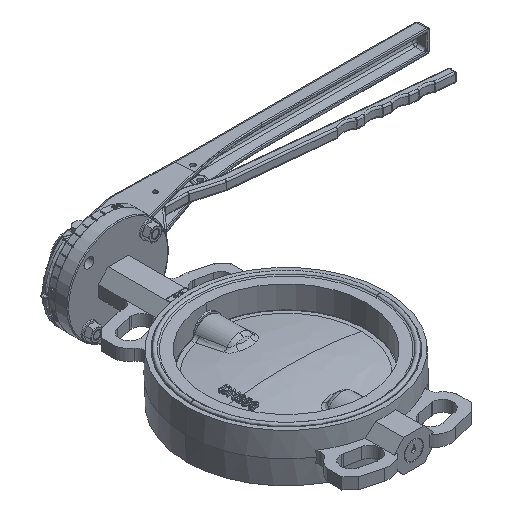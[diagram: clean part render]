
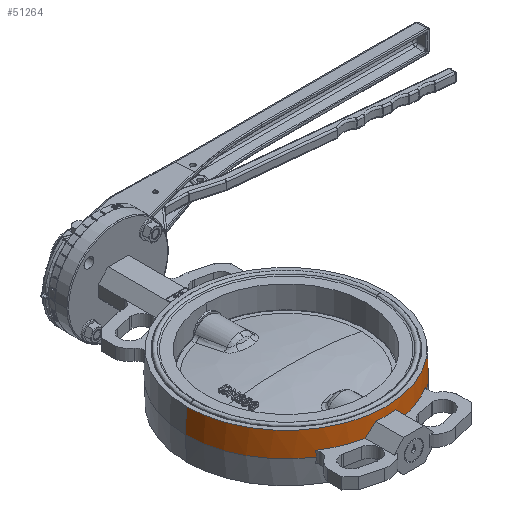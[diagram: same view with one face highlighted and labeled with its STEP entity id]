
A CAD part, isometric view. The second image highlights one B-rep face of the part: STEP entity #51264.
In plain terms, the highlighted conical face has half-angle 2.406 degrees and reference radius 123.5 mm.
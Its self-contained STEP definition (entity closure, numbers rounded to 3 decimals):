
#368 = DIRECTION ( 'NONE',  ( -1., 0., 0. ) ) ;
#465 = EDGE_CURVE ( 'NONE', #21978, #41653, #11090, .T. ) ;
#547 = EDGE_CURVE ( 'NONE', #24864, #21978, #3767, .T. ) ;
#988 = EDGE_CURVE ( 'NONE', #31373, #24864, #52238, .T. ) ;
#2116 = CARTESIAN_POINT ( 'NONE',  ( 0., 0., 0. ) ) ;
#2172 = EDGE_CURVE ( 'NONE', #30839, #22387, #6628, .T. ) ;
#2202 = CARTESIAN_POINT ( 'NONE',  ( 0., 0., 0. ) ) ;
#3767 = B_SPLINE_CURVE_WITH_KNOTS ( 'NONE', 3,
 ( #62873, #30295, #35787, #63357 ),
 .UNSPECIFIED., .F., .F.,
 ( 4, 4 ),
 ( 0., 1. ),
 .UNSPECIFIED. ) ;
#4041 = CARTESIAN_POINT ( 'NONE',  ( -24.5, -122.021, 7. ) ) ;
#4376 = FACE_OUTER_BOUND ( 'NONE', #23511, .T. ) ;
#4558 = CARTESIAN_POINT ( 'NONE',  ( 0., 0., 29.75 ) ) ;
#5665 = DIRECTION ( 'NONE',  ( 0., 0., -1. ) ) ;
#6277 = B_SPLINE_CURVE_WITH_KNOTS ( 'NONE', 3,
 ( #66799, #50691, #12296, #67503 ),
 .UNSPECIFIED., .F., .F.,
 ( 4, 4 ),
 ( 0., 1. ),
 .UNSPECIFIED. ) ;
#6533 = CARTESIAN_POINT ( 'NONE',  ( -12.5, -123.278, 20. ) ) ;
#6610 = CARTESIAN_POINT ( 'NONE',  ( 16.519, -123.054, 15.646 ) ) ;
#6628 = LINE ( 'NONE', #25688, #20423 ) ;
#7028 = CARTESIAN_POINT ( 'NONE',  ( -20.522, -122.635, 11.309 ) ) ;
#7103 = CARTESIAN_POINT ( 'NONE',  ( 20.522, -122.635, 11.309 ) ) ;
#7207 = AXIS2_PLACEMENT_3D ( 'NONE', #4558, #47978, #10287 ) ;
#7955 = CARTESIAN_POINT ( 'NONE',  ( -24.5, -122.021, 7. ) ) ;
#9103 = DIRECTION ( 'NONE',  ( -1., 0., 0. ) ) ;
#9723 = EDGE_CURVE ( 'NONE', #22387, #25065, #67040, .T. ) ;
#10028 = CARTESIAN_POINT ( 'NONE',  ( -124.75, 0., 0. ) ) ;
#10287 = DIRECTION ( 'NONE',  ( -1., 0., 0. ) ) ;
#10343 = EDGE_CURVE ( 'NONE', #34115, #31373, #63984, .T. ) ;
#10666 = AXIS2_PLACEMENT_3D ( 'NONE', #2202, #12020, #12723 ) ;
#10755 = AXIS2_PLACEMENT_3D ( 'NONE', #36368, #46434, #14482 ) ;
#11090 = CIRCLE ( 'NONE', #10666, 124.75 ) ;
#11245 = VERTEX_POINT ( 'NONE', #22971 ) ;
#11755 = ORIENTED_EDGE ( 'NONE', *, *, #16883, .F. ) ;
#11861 = CARTESIAN_POINT ( 'NONE',  ( 12.5, -123.278, 20. ) ) ;
#12020 = DIRECTION ( 'NONE',  ( 0., 0., -1. ) ) ;
#12296 = CARTESIAN_POINT ( 'NONE',  ( 67.758, -104.504, 4.813 ) ) ;
#12476 = ORIENTED_EDGE ( 'NONE', *, *, #988, .F. ) ;
#12589 = ORIENTED_EDGE ( 'NONE', *, *, #10343, .F. ) ;
#12723 = DIRECTION ( 'NONE',  ( -1., 0., 0. ) ) ;
#12839 = ORIENTED_EDGE ( 'NONE', *, *, #71168, .F. ) ;
#14482 = DIRECTION ( 'NONE',  ( -1., 0., 0. ) ) ;
#14914 = EDGE_CURVE ( 'NONE', #11245, #69396, #47628, .T. ) ;
#16147 = ORIENTED_EDGE ( 'NONE', *, *, #465, .F. ) ;
#16883 = EDGE_CURVE ( 'NONE', #25065, #29466, #6277, .T. ) ;
#19000 = DIRECTION ( 'NONE',  ( 0., 0., -1. ) ) ;
#20423 = VECTOR ( 'NONE', #42665, 1000. ) ;
#21978 = VERTEX_POINT ( 'NONE', #69294 ) ;
#22094 = EDGE_CURVE ( 'NONE', #69396, #34115, #65735, .T. ) ;
#22387 = VERTEX_POINT ( 'NONE', #66401 ) ;
#22971 = CARTESIAN_POINT ( 'NONE',  ( 24.5, -122.021, 7. ) ) ;
#23511 = EDGE_LOOP ( 'NONE', ( #64758, #44730, #24235, #16147, #48379, #12476, #12589, #62159, #59207, #12839, #11755, #26280 ) ) ;
#24235 = ORIENTED_EDGE ( 'NONE', *, *, #56804, .T. ) ;
#24864 = VERTEX_POINT ( 'NONE', #40310 ) ;
#25065 = VERTEX_POINT ( 'NONE', #38843 ) ;
#25511 = CARTESIAN_POINT ( 'NONE',  ( -123.5, 0., 29.75 ) ) ;
#25688 = CARTESIAN_POINT ( 'NONE',  ( 123.5, 0., 29.75 ) ) ;
#25753 = DIRECTION ( 'NONE',  ( -0.042, 0., -0.999 ) ) ;
#26280 = ORIENTED_EDGE ( 'NONE', *, *, #9723, .F. ) ;
#29466 = VERTEX_POINT ( 'NONE', #40722 ) ;
#30295 = CARTESIAN_POINT ( 'NONE',  ( -67.758, -104.504, 4.813 ) ) ;
#30809 = AXIS2_PLACEMENT_3D ( 'NONE', #2116, #40512, #51737 ) ;
#30839 = VERTEX_POINT ( 'NONE', #51556 ) ;
#31373 = VERTEX_POINT ( 'NONE', #4041 ) ;
#31920 = DIRECTION ( 'NONE',  ( 0., 0., -1. ) ) ;
#32322 = LINE ( 'NONE', #25511, #37433 ) ;
#34115 = VERTEX_POINT ( 'NONE', #6533 ) ;
#35560 = CARTESIAN_POINT ( 'NONE',  ( 0., 0., 7. ) ) ;
#35787 = CARTESIAN_POINT ( 'NONE',  ( -67.657, -104.686, 2.48 ) ) ;
#36368 = CARTESIAN_POINT ( 'NONE',  ( 0., 0., 29.75 ) ) ;
#37433 = VECTOR ( 'NONE', #25753, 1000. ) ;
#38843 = CARTESIAN_POINT ( 'NONE',  ( 67.562, -104.871, 0. ) ) ;
#40310 = CARTESIAN_POINT ( 'NONE',  ( -67.864, -104.325, 7. ) ) ;
#40512 = DIRECTION ( 'NONE',  ( 0., 0., -1. ) ) ;
#40722 = CARTESIAN_POINT ( 'NONE',  ( 67.864, -104.325, 7. ) ) ;
#41285 = DIRECTION ( 'NONE',  ( -1., 0., 0. ) ) ;
#41653 = VERTEX_POINT ( 'NONE', #10028 ) ;
#42150 = CONICAL_SURFACE ( 'NONE', #10755, 123.5, 0.042 ) ;
#42665 = DIRECTION ( 'NONE',  ( 0.042, 0., -0.999 ) ) ;
#43354 = CARTESIAN_POINT ( 'NONE',  ( 0., 0., 7. ) ) ;
#44730 = ORIENTED_EDGE ( 'NONE', *, *, #54281, .F. ) ;
#45335 = CIRCLE ( 'NONE', #7207, 123.5 ) ;
#46195 = CIRCLE ( 'NONE', #55645, 124.456 ) ;
#46434 = DIRECTION ( 'NONE',  ( 0., 0., -1. ) ) ;
#47628 =( BOUNDED_CURVE ( )  B_SPLINE_CURVE ( 3, ( #60839, #7103, #6610, #11861 ),
 .UNSPECIFIED., .F., .T. ) 
 B_SPLINE_CURVE_WITH_KNOTS ( ( 4, 4 ),
 ( 1.417, 1.515 ),
 .UNSPECIFIED. ) 
 CURVE ( )  GEOMETRIC_REPRESENTATION_ITEM ( )  RATIONAL_B_SPLINE_CURVE ( ( 1., 0.999, 0.999, 1. ) ) 
 REPRESENTATION_ITEM ( '' )  );
#47978 = DIRECTION ( 'NONE',  ( 0., 0., 1. ) ) ;
#48379 = ORIENTED_EDGE ( 'NONE', *, *, #547, .F. ) ;
#50020 = VERTEX_POINT ( 'NONE', #50436 ) ;
#50436 = CARTESIAN_POINT ( 'NONE',  ( -123.5, 0., 29.75 ) ) ;
#50691 = CARTESIAN_POINT ( 'NONE',  ( 67.657, -104.686, 2.48 ) ) ;
#51264 = ADVANCED_FACE ( 'NONE', ( #4376 ), #42150, .T. ) ;
#51556 = CARTESIAN_POINT ( 'NONE',  ( 123.5, 0., 29.75 ) ) ;
#51737 = DIRECTION ( 'NONE',  ( -1., 0., 0. ) ) ;
#52238 = CIRCLE ( 'NONE', #59418, 124.456 ) ;
#54281 = EDGE_CURVE ( 'NONE', #50020, #30839, #45335, .T. ) ;
#55645 = AXIS2_PLACEMENT_3D ( 'NONE', #35560, #19000, #41285 ) ;
#56168 = CARTESIAN_POINT ( 'NONE',  ( -12.5, -123.278, 20. ) ) ;
#56804 = EDGE_CURVE ( 'NONE', #50020, #41653, #32322, .T. ) ;
#58721 = CARTESIAN_POINT ( 'NONE',  ( 0., 0., 20. ) ) ;
#59207 = ORIENTED_EDGE ( 'NONE', *, *, #14914, .F. ) ;
#59418 = AXIS2_PLACEMENT_3D ( 'NONE', #43354, #5665, #368 ) ;
#60839 = CARTESIAN_POINT ( 'NONE',  ( 24.5, -122.021, 7. ) ) ;
#61939 = CARTESIAN_POINT ( 'NONE',  ( -16.519, -123.054, 15.646 ) ) ;
#62048 = AXIS2_PLACEMENT_3D ( 'NONE', #58721, #31920, #9103 ) ;
#62159 = ORIENTED_EDGE ( 'NONE', *, *, #22094, .F. ) ;
#62873 = CARTESIAN_POINT ( 'NONE',  ( -67.864, -104.325, 7. ) ) ;
#63357 = CARTESIAN_POINT ( 'NONE',  ( -67.562, -104.871, 0. ) ) ;
#63984 =( BOUNDED_CURVE ( )  B_SPLINE_CURVE ( 3, ( #56168, #61939, #7028, #7955 ),
 .UNSPECIFIED., .F., .T. ) 
 B_SPLINE_CURVE_WITH_KNOTS ( ( 4, 4 ),
 ( 4.768, 4.866 ),
 .UNSPECIFIED. ) 
 CURVE ( )  GEOMETRIC_REPRESENTATION_ITEM ( )  RATIONAL_B_SPLINE_CURVE ( ( 1., 0.999, 0.999, 1. ) ) 
 REPRESENTATION_ITEM ( '' )  );
#64758 = ORIENTED_EDGE ( 'NONE', *, *, #2172, .F. ) ;
#65735 = CIRCLE ( 'NONE', #62048, 123.91 ) ;
#66401 = CARTESIAN_POINT ( 'NONE',  ( 124.75, 0., 0. ) ) ;
#66799 = CARTESIAN_POINT ( 'NONE',  ( 67.562, -104.871, 0. ) ) ;
#67040 = CIRCLE ( 'NONE', #30809, 124.75 ) ;
#67503 = CARTESIAN_POINT ( 'NONE',  ( 67.864, -104.325, 7. ) ) ;
#69294 = CARTESIAN_POINT ( 'NONE',  ( -67.562, -104.871, 0. ) ) ;
#69396 = VERTEX_POINT ( 'NONE', #69528 ) ;
#69528 = CARTESIAN_POINT ( 'NONE',  ( 12.5, -123.278, 20. ) ) ;
#71168 = EDGE_CURVE ( 'NONE', #29466, #11245, #46195, .T. ) ;
